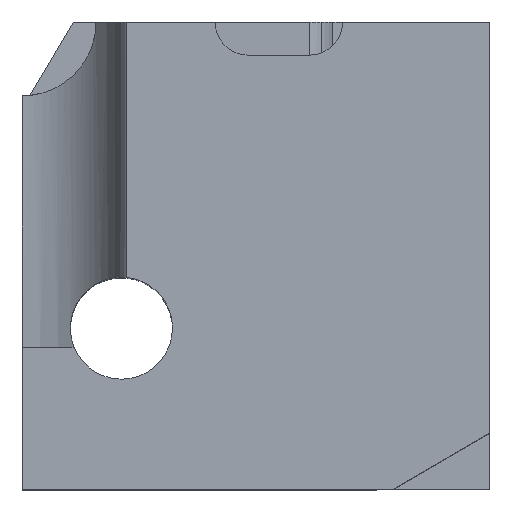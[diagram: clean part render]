
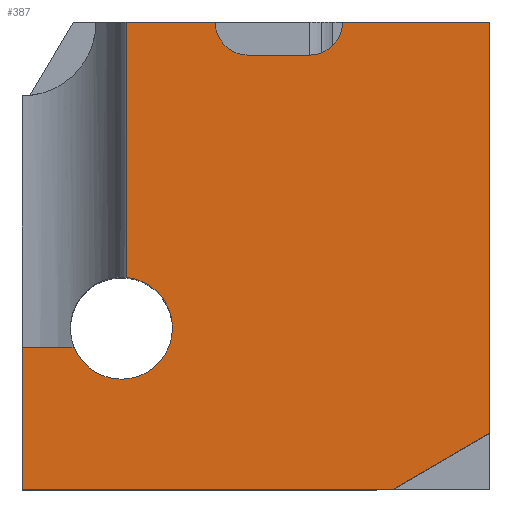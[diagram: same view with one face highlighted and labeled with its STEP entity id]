
A CAD part, top view. The second image highlights one B-rep face of the part: STEP entity #387.
In plain terms, the highlighted planar face has unit normal (0, 0, 1).
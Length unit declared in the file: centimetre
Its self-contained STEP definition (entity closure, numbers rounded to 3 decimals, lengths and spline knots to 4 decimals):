
#3 = CIRCLE ( 'NONE', #1386, 109.2273 ) ;
#36 = VERTEX_POINT ( 'NONE', #1158 ) ;
#42 = CARTESIAN_POINT ( 'NONE',  ( 614.259, 1000., 1000. ) ) ;
#50 = DIRECTION ( 'NONE',  ( 1., 0., 0. ) ) ;
#61 = DIRECTION ( 'NONE',  ( 1., 0., 0. ) ) ;
#75 = CARTESIAN_POINT ( 'NONE',  ( 211.953, 344.722, 1000. ) ) ;
#96 = AXIS2_PLACEMENT_3D ( 'NONE', #1679, #770, #470 ) ;
#165 = CARTESIAN_POINT ( 'NONE',  ( 0., 1000., 1000. ) ) ;
#180 = EDGE_CURVE ( 'NONE', #785, #1702, #1060, .T. ) ;
#220 = CARTESIAN_POINT ( 'NONE',  ( 0., 304.3413, 1000. ) ) ;
#225 = DIRECTION ( 'NONE',  ( 0., 0., 1. ) ) ;
#226 = CARTESIAN_POINT ( 'NONE',  ( 0., 0., 1000. ) ) ;
#227 = VECTOR ( 'NONE', #1633, 100. ) ;
#251 = EDGE_CURVE ( 'NONE', #1390, #1728, #3, .T. ) ;
#265 = CARTESIAN_POINT ( 'NONE',  ( 614.259, 928.9353, 1000. ) ) ;
#358 = FACE_OUTER_BOUND ( 'NONE', #728, .T. ) ;
#387 = ADVANCED_FACE ( 'NONE', ( #358 ), #964, .T. ) ;
#421 = ORIENTED_EDGE ( 'NONE', *, *, #1456, .T. ) ;
#422 = CARTESIAN_POINT ( 'NONE',  ( 0., 1000., 1000. ) ) ;
#440 = LINE ( 'NONE', #1954, #1354 ) ;
#444 = DIRECTION ( 'NONE',  ( -1., 0., 0. ) ) ;
#445 = EDGE_CURVE ( 'NONE', #36, #1702, #738, .T. ) ;
#470 = DIRECTION ( 'NONE',  ( 1., 0., 0. ) ) ;
#475 = CARTESIAN_POINT ( 'NONE',  ( 685.3237, 1000., 1000. ) ) ;
#498 = ORIENTED_EDGE ( 'NONE', *, *, #1148, .F. ) ;
#508 = VECTOR ( 'NONE', #1894, 100. ) ;
#526 = EDGE_CURVE ( 'NONE', #987, #1912, #1791, .T. ) ;
#528 = DIRECTION ( 'NONE',  ( -1., 0., 0. ) ) ;
#590 = AXIS2_PLACEMENT_3D ( 'NONE', #1587, #1136, #50 ) ;
#595 = CARTESIAN_POINT ( 'NONE',  ( 483.6767, 928.9353, 1000. ) ) ;
#629 = CARTESIAN_POINT ( 'NONE',  ( 412.612, 1000., 1000. ) ) ;
#674 = CARTESIAN_POINT ( 'NONE',  ( 211.953, 344.722, 1000. ) ) ;
#689 = EDGE_CURVE ( 'NONE', #1257, #791, #1394, .T. ) ;
#725 = ORIENTED_EDGE ( 'NONE', *, *, #1537, .F. ) ;
#728 = EDGE_LOOP ( 'NONE', ( #498, #1716, #822, #1838, #1016, #421, #1248, #1869, #1194, #1330, #1848, #725, #744 ) ) ;
#738 = LINE ( 'NONE', #1343, #227 ) ;
#741 = CARTESIAN_POINT ( 'NONE',  ( 0., 1000., 1000. ) ) ;
#744 = ORIENTED_EDGE ( 'NONE', *, *, #1451, .F. ) ;
#770 = DIRECTION ( 'NONE',  ( 0., 0., 1. ) ) ;
#785 = VERTEX_POINT ( 'NONE', #629 ) ;
#791 = VERTEX_POINT ( 'NONE', #475 ) ;
#806 = VECTOR ( 'NONE', #1028, 100. ) ;
#808 = EDGE_CURVE ( 'NONE', #867, #1257, #1459, .T. ) ;
#822 = ORIENTED_EDGE ( 'NONE', *, *, #445, .F. ) ;
#830 = LINE ( 'NONE', #984, #508 ) ;
#841 = EDGE_CURVE ( 'NONE', #1728, #36, #1897, .T. ) ;
#864 = VERTEX_POINT ( 'NONE', #963 ) ;
#867 = VERTEX_POINT ( 'NONE', #1721 ) ;
#944 = VERTEX_POINT ( 'NONE', #595 ) ;
#963 = CARTESIAN_POINT ( 'NONE',  ( 793.4856, 0., 1000. ) ) ;
#964 = PLANE ( 'NONE',  #590 ) ;
#965 = CIRCLE ( 'NONE', #96, 71.0647 ) ;
#966 = DIRECTION ( 'NONE',  ( 0., 0., 1. ) ) ;
#981 = DIRECTION ( 'NONE',  ( 0., 0., 1. ) ) ;
#984 = CARTESIAN_POINT ( 'NONE',  ( 483.6767, 928.9353, 1000. ) ) ;
#987 = VERTEX_POINT ( 'NONE', #1164 ) ;
#1009 = EDGE_CURVE ( 'NONE', #867, #864, #440, .T. ) ;
#1016 = ORIENTED_EDGE ( 'NONE', *, *, #251, .F. ) ;
#1028 = DIRECTION ( 'NONE',  ( 0., -1., 0. ) ) ;
#1030 = VECTOR ( 'NONE', #444, 100. ) ;
#1031 = AXIS2_PLACEMENT_3D ( 'NONE', #75, #981, #1891 ) ;
#1060 = LINE ( 'NONE', #741, #1030 ) ;
#1079 = AXIS2_PLACEMENT_3D ( 'NONE', #42, #966, #1270 ) ;
#1110 = LINE ( 'NONE', #226, #1746 ) ;
#1136 = DIRECTION ( 'NONE',  ( 0., 0., 1. ) ) ;
#1148 = EDGE_CURVE ( 'NONE', #785, #944, #965, .T. ) ;
#1158 = CARTESIAN_POINT ( 'NONE',  ( 221.8217, 453.5025, 1000. ) ) ;
#1164 = CARTESIAN_POINT ( 'NONE',  ( 0., 304.3413, 1000. ) ) ;
#1165 = CARTESIAN_POINT ( 'NONE',  ( 221.8217, 1000., 1000. ) ) ;
#1194 = ORIENTED_EDGE ( 'NONE', *, *, #1009, .F. ) ;
#1248 = ORIENTED_EDGE ( 'NONE', *, *, #526, .T. ) ;
#1257 = VERTEX_POINT ( 'NONE', #1960 ) ;
#1270 = DIRECTION ( 'NONE',  ( 1., 0., 0. ) ) ;
#1296 = DIRECTION ( 'NONE',  ( 0., 1., 0. ) ) ;
#1325 = CARTESIAN_POINT ( 'NONE',  ( 0., 0., 1000. ) ) ;
#1330 = ORIENTED_EDGE ( 'NONE', *, *, #808, .T. ) ;
#1333 = CIRCLE ( 'NONE', #1079, 71.0647 ) ;
#1343 = CARTESIAN_POINT ( 'NONE',  ( 221.8217, 304.3413, 1000. ) ) ;
#1354 = VECTOR ( 'NONE', #1617, 100. ) ;
#1386 = AXIS2_PLACEMENT_3D ( 'NONE', #674, #225, #1759 ) ;
#1390 = VERTEX_POINT ( 'NONE', #1396 ) ;
#1394 = LINE ( 'NONE', #165, #1517 ) ;
#1396 = CARTESIAN_POINT ( 'NONE',  ( 110.4641, 304.3413, 1000. ) ) ;
#1401 = DIRECTION ( 'NONE',  ( -1., 0., 0. ) ) ;
#1417 = VECTOR ( 'NONE', #1296, 100. ) ;
#1451 = EDGE_CURVE ( 'NONE', #944, #1594, #830, .T. ) ;
#1456 = EDGE_CURVE ( 'NONE', #1390, #987, #1873, .T. ) ;
#1459 = LINE ( 'NONE', #1882, #1417 ) ;
#1484 = EDGE_CURVE ( 'NONE', #1912, #864, #1110, .T. ) ;
#1517 = VECTOR ( 'NONE', #1401, 100. ) ;
#1531 = VECTOR ( 'NONE', #528, 100. ) ;
#1537 = EDGE_CURVE ( 'NONE', #1594, #791, #1333, .T. ) ;
#1587 = CARTESIAN_POINT ( 'NONE',  ( 0., 0., 1000. ) ) ;
#1594 = VERTEX_POINT ( 'NONE', #265 ) ;
#1617 = DIRECTION ( 'NONE',  ( -0.864, -0.503, 0. ) ) ;
#1633 = DIRECTION ( 'NONE',  ( 0., 1., 0. ) ) ;
#1679 = CARTESIAN_POINT ( 'NONE',  ( 483.6767, 1000., 1000. ) ) ;
#1702 = VERTEX_POINT ( 'NONE', #1165 ) ;
#1716 = ORIENTED_EDGE ( 'NONE', *, *, #180, .T. ) ;
#1721 = CARTESIAN_POINT ( 'NONE',  ( 1000., 120.1837, 1000. ) ) ;
#1728 = VERTEX_POINT ( 'NONE', #1789 ) ;
#1746 = VECTOR ( 'NONE', #61, 100. ) ;
#1759 = DIRECTION ( 'NONE',  ( 1., 0., 0. ) ) ;
#1789 = CARTESIAN_POINT ( 'NONE',  ( 321.1803, 344.722, 1000. ) ) ;
#1791 = LINE ( 'NONE', #422, #806 ) ;
#1838 = ORIENTED_EDGE ( 'NONE', *, *, #841, .F. ) ;
#1848 = ORIENTED_EDGE ( 'NONE', *, *, #689, .T. ) ;
#1869 = ORIENTED_EDGE ( 'NONE', *, *, #1484, .T. ) ;
#1873 = LINE ( 'NONE', #220, #1531 ) ;
#1882 = CARTESIAN_POINT ( 'NONE',  ( 1000., 1000., 1000. ) ) ;
#1891 = DIRECTION ( 'NONE',  ( 1., 0., 0. ) ) ;
#1894 = DIRECTION ( 'NONE',  ( 1., 0., 0. ) ) ;
#1897 = CIRCLE ( 'NONE', #1031, 109.2273 ) ;
#1912 = VERTEX_POINT ( 'NONE', #1325 ) ;
#1954 = CARTESIAN_POINT ( 'NONE',  ( 1000., 120.1837, 1000. ) ) ;
#1960 = CARTESIAN_POINT ( 'NONE',  ( 1000., 1000., 1000. ) ) ;
